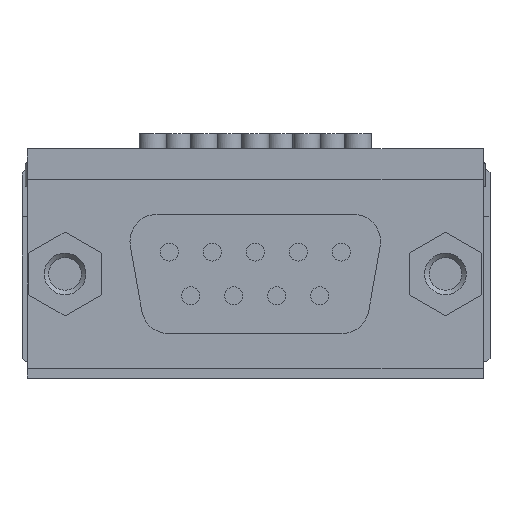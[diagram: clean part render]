
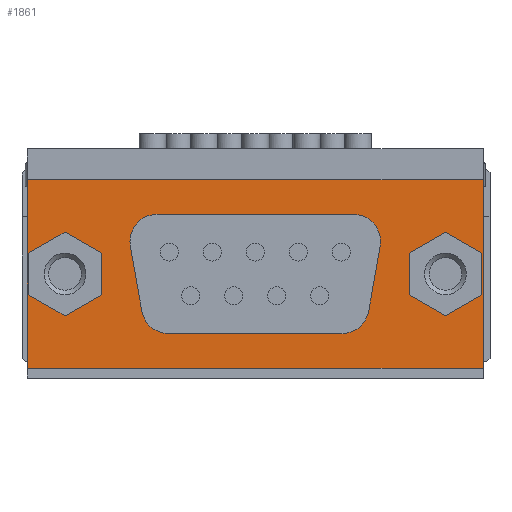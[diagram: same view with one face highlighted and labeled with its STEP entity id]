
A CAD part, front view. The second image highlights one B-rep face of the part: STEP entity #1861.
In plain terms, the highlighted planar face has unit normal (0, -1, 0).
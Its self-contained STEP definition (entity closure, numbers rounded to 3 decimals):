
#571=LINE('',#10650,#1093);
#606=LINE('',#10749,#1128);
#918=LINE('',#13254,#1470);
#919=LINE('',#13259,#1471);
#920=LINE('',#13263,#1472);
#921=LINE('',#13267,#1473);
#922=LINE('',#13270,#1474);
#923=LINE('',#13271,#1475);
#924=LINE('',#13272,#1476);
#925=LINE('',#13275,#1477);
#926=LINE('',#13277,#1478);
#927=LINE('',#13279,#1479);
#928=LINE('',#13281,#1480);
#929=LINE('',#13283,#1481);
#930=LINE('',#13284,#1482);
#931=LINE('',#13287,#1483);
#932=LINE('',#13289,#1484);
#933=LINE('',#13291,#1485);
#934=LINE('',#13293,#1486);
#935=LINE('',#13295,#1487);
#1093=VECTOR('',#8321,1.);
#1128=VECTOR('',#8436,1.);
#1470=VECTOR('',#9576,1.);
#1471=VECTOR('',#9579,1.);
#1472=VECTOR('',#9582,1.);
#1473=VECTOR('',#9585,1.);
#1474=VECTOR('',#9588,1.);
#1475=VECTOR('',#9589,1.);
#1476=VECTOR('',#9590,1.);
#1477=VECTOR('',#9591,1.);
#1478=VECTOR('',#9592,1.);
#1479=VECTOR('',#9593,1.);
#1480=VECTOR('',#9594,1.);
#1481=VECTOR('',#9595,1.);
#1482=VECTOR('',#9596,1.);
#1483=VECTOR('',#9597,1.);
#1484=VECTOR('',#9598,1.);
#1485=VECTOR('',#9599,1.);
#1486=VECTOR('',#9600,1.);
#1487=VECTOR('',#9601,1.);
#1861=ADVANCED_FACE('',(#2389,#2764,#2390,#2391),#2213,.T.);
#2213=PLANE('',#7861);
#2389=FACE_BOUND('',#3285,.T.);
#2390=FACE_BOUND('',#3287,.T.);
#2391=FACE_BOUND('',#3288,.T.);
#2764=FACE_OUTER_BOUND('',#3286,.T.);
#3285=EDGE_LOOP('',(#4992,#4993,#4994,#4995,#4996,#4997,#4998,#4999));
#3286=EDGE_LOOP('',(#5000,#5001,#5002,#5003));
#3287=EDGE_LOOP('',(#5004,#5005,#5006,#5007,#5008,#5009));
#3288=EDGE_LOOP('',(#5010,#5011,#5012,#5013,#5014,#5015));
#4992=ORIENTED_EDGE('',*,*,#6872,.F.);
#4993=ORIENTED_EDGE('',*,*,#6873,.T.);
#4994=ORIENTED_EDGE('',*,*,#6874,.F.);
#4995=ORIENTED_EDGE('',*,*,#6875,.F.);
#4996=ORIENTED_EDGE('',*,*,#6876,.F.);
#4997=ORIENTED_EDGE('',*,*,#6877,.T.);
#4998=ORIENTED_EDGE('',*,*,#6878,.F.);
#4999=ORIENTED_EDGE('',*,*,#6879,.T.);
#5000=ORIENTED_EDGE('',*,*,#6880,.T.);
#5001=ORIENTED_EDGE('',*,*,#6329,.T.);
#5002=ORIENTED_EDGE('',*,*,#6881,.T.);
#5003=ORIENTED_EDGE('',*,*,#6282,.T.);
#5004=ORIENTED_EDGE('',*,*,#6882,.T.);
#5005=ORIENTED_EDGE('',*,*,#6883,.T.);
#5006=ORIENTED_EDGE('',*,*,#6884,.T.);
#5007=ORIENTED_EDGE('',*,*,#6885,.T.);
#5008=ORIENTED_EDGE('',*,*,#6886,.T.);
#5009=ORIENTED_EDGE('',*,*,#6887,.T.);
#5010=ORIENTED_EDGE('',*,*,#6888,.F.);
#5011=ORIENTED_EDGE('',*,*,#6889,.F.);
#5012=ORIENTED_EDGE('',*,*,#6890,.F.);
#5013=ORIENTED_EDGE('',*,*,#6891,.F.);
#5014=ORIENTED_EDGE('',*,*,#6892,.F.);
#5015=ORIENTED_EDGE('',*,*,#6893,.F.);
#5584=VERTEX_POINT('',#10649);
#5585=VERTEX_POINT('',#10651);
#5608=VERTEX_POINT('',#10748);
#5609=VERTEX_POINT('',#10750);
#5954=VERTEX_POINT('',#13255);
#5955=VERTEX_POINT('',#13256);
#5956=VERTEX_POINT('',#13258);
#5957=VERTEX_POINT('',#13260);
#5958=VERTEX_POINT('',#13262);
#5959=VERTEX_POINT('',#13264);
#5960=VERTEX_POINT('',#13266);
#5961=VERTEX_POINT('',#13268);
#5962=VERTEX_POINT('',#13273);
#5963=VERTEX_POINT('',#13274);
#5964=VERTEX_POINT('',#13276);
#5965=VERTEX_POINT('',#13278);
#5966=VERTEX_POINT('',#13280);
#5967=VERTEX_POINT('',#13282);
#5968=VERTEX_POINT('',#13285);
#5969=VERTEX_POINT('',#13286);
#5970=VERTEX_POINT('',#13288);
#5971=VERTEX_POINT('',#13290);
#5972=VERTEX_POINT('',#13292);
#5973=VERTEX_POINT('',#13294);
#6282=EDGE_CURVE('',#5585,#5584,#571,.T.);
#6329=EDGE_CURVE('',#5609,#5608,#606,.T.);
#6872=EDGE_CURVE('',#5954,#5955,#918,.T.);
#6873=EDGE_CURVE('',#5954,#5956,#7262,.T.);
#6874=EDGE_CURVE('',#5957,#5956,#919,.T.);
#6875=EDGE_CURVE('',#5958,#5957,#7263,.T.);
#6876=EDGE_CURVE('',#5959,#5958,#920,.T.);
#6877=EDGE_CURVE('',#5959,#5960,#7264,.T.);
#6878=EDGE_CURVE('',#5961,#5960,#921,.T.);
#6879=EDGE_CURVE('',#5961,#5955,#7265,.T.);
#6880=EDGE_CURVE('',#5584,#5609,#922,.T.);
#6881=EDGE_CURVE('',#5608,#5585,#923,.T.);
#6882=EDGE_CURVE('',#5962,#5963,#924,.T.);
#6883=EDGE_CURVE('',#5963,#5964,#925,.T.);
#6884=EDGE_CURVE('',#5964,#5965,#926,.T.);
#6885=EDGE_CURVE('',#5965,#5966,#927,.T.);
#6886=EDGE_CURVE('',#5966,#5967,#928,.T.);
#6887=EDGE_CURVE('',#5967,#5962,#929,.T.);
#6888=EDGE_CURVE('',#5968,#5969,#930,.T.);
#6889=EDGE_CURVE('',#5970,#5968,#931,.T.);
#6890=EDGE_CURVE('',#5971,#5970,#932,.T.);
#6891=EDGE_CURVE('',#5972,#5971,#933,.T.);
#6892=EDGE_CURVE('',#5973,#5972,#934,.T.);
#6893=EDGE_CURVE('',#5969,#5973,#935,.T.);
#7262=CIRCLE('',#7857,1.8);
#7263=CIRCLE('',#7858,1.8);
#7264=CIRCLE('',#7859,1.8);
#7265=CIRCLE('',#7860,1.8);
#7857=AXIS2_PLACEMENT_3D('',#13257,#9577,#9578);
#7858=AXIS2_PLACEMENT_3D('',#13261,#9580,#9581);
#7859=AXIS2_PLACEMENT_3D('',#13265,#9583,#9584);
#7860=AXIS2_PLACEMENT_3D('',#13269,#9586,#9587);
#7861=AXIS2_PLACEMENT_3D('',#13296,#9602,#9603);
#8321=DIRECTION('',(0.,0.,1.));
#8436=DIRECTION('',(0.,0.,-1.));
#9576=DIRECTION('',(0.174,0.,-0.985));
#9577=DIRECTION('',(0.,1.,0.));
#9578=DIRECTION('',(0.,0.,-1.));
#9579=DIRECTION('',(-1.,0.,0.));
#9580=DIRECTION('',(0.,-1.,0.));
#9581=DIRECTION('',(0.,0.,-1.));
#9582=DIRECTION('',(0.174,0.,0.985));
#9583=DIRECTION('',(0.,1.,0.));
#9584=DIRECTION('',(0.,0.,-1.));
#9585=DIRECTION('',(1.,0.,0.));
#9586=DIRECTION('',(0.,1.,0.));
#9587=DIRECTION('',(0.,0.,-1.));
#9588=DIRECTION('',(-1.,0.,0.));
#9589=DIRECTION('',(1.,0.,0.));
#9590=DIRECTION('',(0.866,0.,-0.5));
#9591=DIRECTION('',(0.,0.,-1.));
#9592=DIRECTION('',(-0.866,0.,-0.5));
#9593=DIRECTION('',(-0.866,0.,0.5));
#9594=DIRECTION('',(0.,0.,1.));
#9595=DIRECTION('',(0.866,0.,0.5));
#9596=DIRECTION('',(0.,0.,-1.));
#9597=DIRECTION('',(-0.866,0.,-0.5));
#9598=DIRECTION('',(-0.866,0.,0.5));
#9599=DIRECTION('',(0.,0.,1.));
#9600=DIRECTION('',(0.866,0.,0.5));
#9601=DIRECTION('',(0.866,0.,-0.5));
#9602=DIRECTION('',(0.,-1.,0.));
#9603=DIRECTION('',(0.,0.,1.));
#10649=CARTESIAN_POINT('',(15.05,-13.2,-3.04));
#10650=CARTESIAN_POINT('',(15.05,-13.2,-15.54));
#10651=CARTESIAN_POINT('',(15.05,-13.2,-15.54));
#10748=CARTESIAN_POINT('',(-15.15,-13.2,-15.54));
#10749=CARTESIAN_POINT('',(-15.15,-13.2,-3.04));
#10750=CARTESIAN_POINT('',(-15.15,-13.2,-3.04));
#13254=CARTESIAN_POINT('',(-7.032,-13.2,-14.773));
#13255=CARTESIAN_POINT('',(-8.323,-13.2,-7.453));
#13256=CARTESIAN_POINT('',(-7.564,-13.2,-11.753));
#13257=CARTESIAN_POINT('',(-6.55,-13.2,-7.14));
#13258=CARTESIAN_POINT('',(-6.55,-13.2,-5.34));
#13259=CARTESIAN_POINT('',(-18.47,-13.2,-5.34));
#13260=CARTESIAN_POINT('',(6.45,-13.2,-5.34));
#13261=CARTESIAN_POINT('',(6.45,-13.2,-7.14));
#13262=CARTESIAN_POINT('',(8.223,-13.2,-7.453));
#13263=CARTESIAN_POINT('',(5.821,-13.2,-21.073));
#13264=CARTESIAN_POINT('',(7.464,-13.2,-11.753));
#13265=CARTESIAN_POINT('',(5.692,-13.2,-11.44));
#13266=CARTESIAN_POINT('',(5.692,-13.2,-13.24));
#13267=CARTESIAN_POINT('',(-18.47,-13.2,-13.24));
#13268=CARTESIAN_POINT('',(-5.792,-13.2,-13.24));
#13269=CARTESIAN_POINT('',(-5.792,-13.2,-11.44));
#13270=CARTESIAN_POINT('',(15.05,-13.2,-3.04));
#13271=CARTESIAN_POINT('',(-15.15,-13.2,-15.54));
#13272=CARTESIAN_POINT('',(-12.65,-13.2,-6.519));
#13273=CARTESIAN_POINT('',(-12.65,-13.2,-6.519));
#13274=CARTESIAN_POINT('',(-10.25,-13.2,-7.904));
#13275=CARTESIAN_POINT('',(-10.25,-13.2,-12.061));
#13276=CARTESIAN_POINT('',(-10.25,-13.2,-10.676));
#13277=CARTESIAN_POINT('',(-10.25,-13.2,-10.676));
#13278=CARTESIAN_POINT('',(-12.65,-13.2,-12.061));
#13279=CARTESIAN_POINT('',(-12.65,-13.2,-12.061));
#13280=CARTESIAN_POINT('',(-15.05,-13.2,-10.676));
#13281=CARTESIAN_POINT('',(-15.05,-13.2,-12.061));
#13282=CARTESIAN_POINT('',(-15.05,-13.2,-7.904));
#13283=CARTESIAN_POINT('',(-15.05,-13.2,-7.904));
#13284=CARTESIAN_POINT('',(10.15,-13.2,-12.061));
#13285=CARTESIAN_POINT('',(10.15,-13.2,-7.904));
#13286=CARTESIAN_POINT('',(10.15,-13.2,-10.676));
#13287=CARTESIAN_POINT('',(12.55,-13.2,-6.519));
#13288=CARTESIAN_POINT('',(12.55,-13.2,-6.519));
#13289=CARTESIAN_POINT('',(14.95,-13.2,-7.904));
#13290=CARTESIAN_POINT('',(14.95,-13.2,-7.904));
#13291=CARTESIAN_POINT('',(14.95,-13.2,-12.061));
#13292=CARTESIAN_POINT('',(14.95,-13.2,-10.676));
#13293=CARTESIAN_POINT('',(12.55,-13.2,-12.061));
#13294=CARTESIAN_POINT('',(12.55,-13.2,-12.061));
#13295=CARTESIAN_POINT('',(10.15,-13.2,-10.676));
#13296=CARTESIAN_POINT('',(15.05,-13.2,-3.04));
